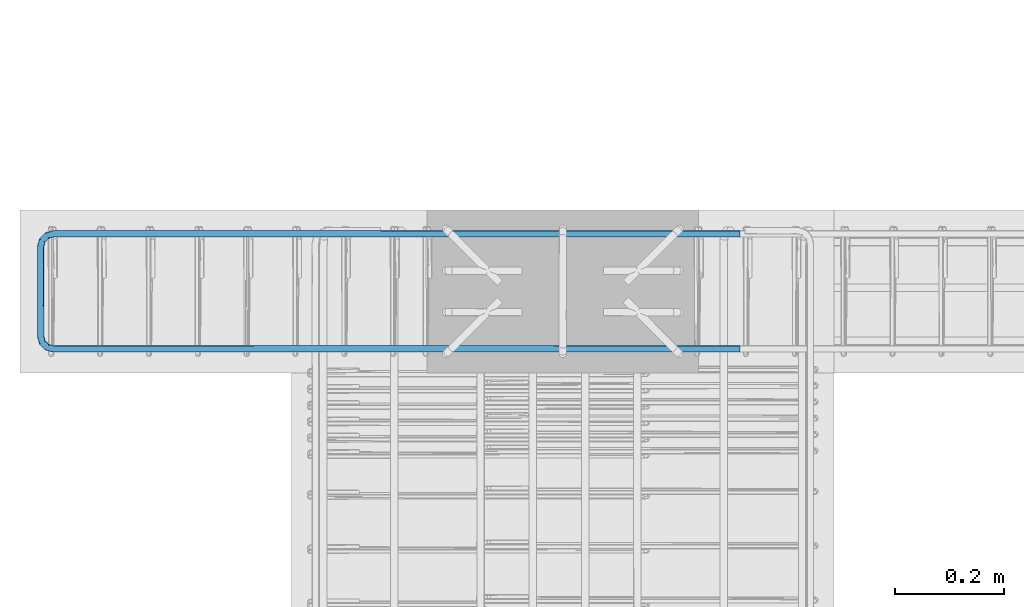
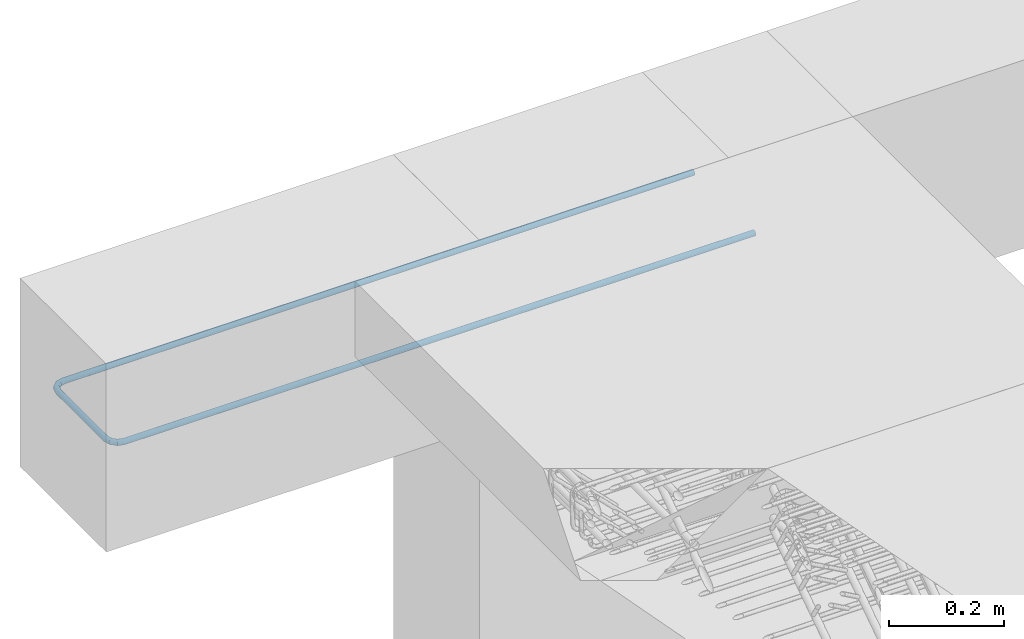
# One storey, part 6 of 24: 1 reinforcing bar.
"""IFC2X3 building model written with IfcOpenShell, lengths in metres."""

from ifc_helpers import new_model, entity, si_unit, direction, frame, origin, place, context, subcontext, project, spatial, shape, source, transform, mapped, element, save


model = new_model("IFC2X3")

# Units and contexts
model_context = context("Model", 3, precision=0.0, world=origin(), true_north=direction((0.0, 1.0)))
plan_context = context("Plan", 3, precision=0.0, world=origin(), true_north=direction((0.0, 1.0)))
body_context = subcontext(model_context, "Body", "Model", "MODEL_VIEW", scale=1.0)
ifc_project = project(units=[si_unit("LENGTHUNIT", "METRE"), si_unit("AREAUNIT", "SQUARE_METRE"), si_unit("VOLUMEUNIT", "CUBIC_METRE"), si_unit("PLANEANGLEUNIT", "RADIAN"), si_unit("THERMODYNAMICTEMPERATUREUNIT", "DEGREE_CELSIUS"), si_unit("FORCEUNIT", "NEWTON"), si_unit("MASSUNIT", "GRAM", prefix="KILO")], contexts=[model_context, plan_context])

# Site, building, storey
placement = place(None, origin())
site = spatial("IfcSite", under=ifc_project, at=placement, Name="Default Site", CompositionType="ELEMENT")
building = spatial("IfcBuilding", under=site, at=placement, Name="Default Building", CompositionType="ELEMENT")
storey_placement = place(placement, frame((0.0, 0.0, 3.3), z_axis=(1.0, 0.0, 0.0), x_axis=(0.0, 0.0, 1.0)))
storey = spatial("IfcBuildingStorey", under=building, at=storey_placement, Name="Piano 2", CompositionType="ELEMENT", Elevation=3.3)

# Reinforcing bar
shared_shape_1 = source(origin(), body_context, None, "AdvancedSweptSolid", [
    entity("IfcSweptDiskSolid", entity("IfcCompositeCurve", [entity("IfcCompositeCurveSegment", "CONTINUOUS", True, entity("IfcPolyline", [entity("IfcCartesianPoint", [0.0, 0.0, 0.0]), entity("IfcCartesianPoint", [0.0, 0.096, 0.0]), entity("IfcCartesianPoint", [0.003215, 0.108, 0.0]), entity("IfcCartesianPoint", [0.012, 0.116785, 0.0]), entity("IfcCartesianPoint", [0.024, 0.12, 0.0]), entity("IfcCartesianPoint", [0.962, 0.12, 0.0]), entity("IfcCartesianPoint", [1.288909, 0.12, 0.0])]))], False), 0.006, 0.0, 0.0),
])
shared_shape_2 = source(origin(), body_context, None, "MappedRepresentation", [mapped(shared_shape_1, transform((-4.962, 4.986, 3.087)))])
shared_shape_3 = source(origin(), body_context, None, "AdvancedSweptSolid", [
    entity("IfcSweptDiskSolid", entity("IfcCompositeCurve", [entity("IfcCompositeCurveSegment", "CONTINUOUS", True, entity("IfcPolyline", [entity("IfcCartesianPoint", [0.0, 0.0, 0.0]), entity("IfcCartesianPoint", [0.0, -0.096, 0.0]), entity("IfcCartesianPoint", [0.003215, -0.108, 0.0]), entity("IfcCartesianPoint", [0.012, -0.116785, 0.0]), entity("IfcCartesianPoint", [0.024, -0.12, 0.0]), entity("IfcCartesianPoint", [0.962, -0.12, 0.0]), entity("IfcCartesianPoint", [1.288909, -0.12, 0.0])]))], False), 0.006, 0.0, 0.0),
])
shared_shape_4 = source(origin(), body_context, None, "MappedRepresentation", [mapped(shared_shape_3, transform((-4.962, 5.014, 3.087)))])
element("IfcReinforcingBar", 1, at=placement, inside=storey, Name="Arm Generica; Trave:9 [Piano:2]", BarLength=2.796358, BarRole="NOTDEFINED", BarSurface="TEXTURED", NominalDiameter=0.012, shapes=[
    shape(body_context, None, "MappedRepresentation", [mapped(shared_shape_2, transform((0.0, 0.0, 0.0))), mapped(shared_shape_4, transform((0.0, 0.0, 0.0)))]),
])

save(model, "model.ifc")
